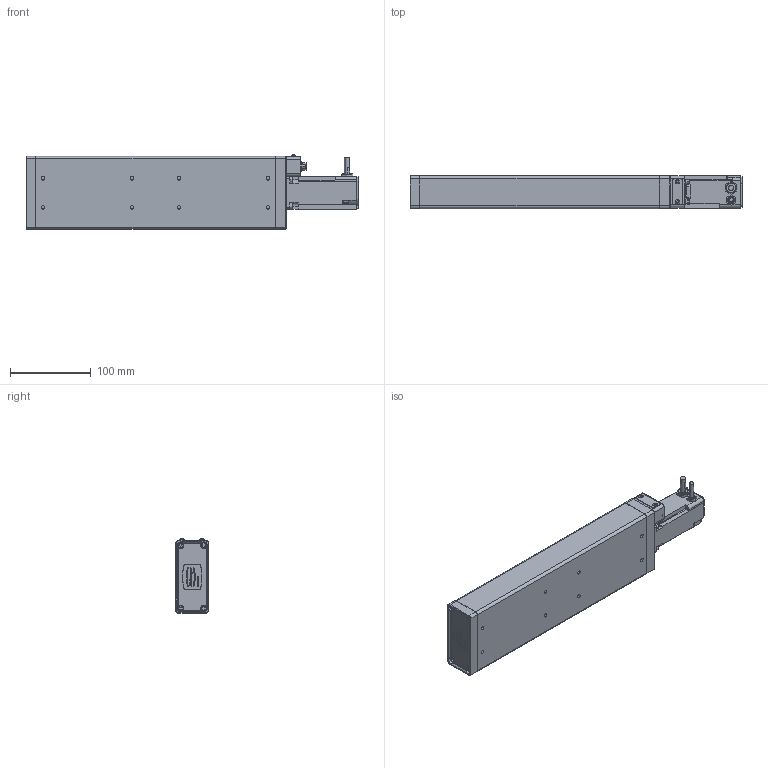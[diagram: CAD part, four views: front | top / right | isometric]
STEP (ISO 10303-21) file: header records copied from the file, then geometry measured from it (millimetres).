
FILE_DESCRIPTION((''),'2;1');
FILE_NAME('STM_LTP90_552154_ASM','2026-04-24T08:08:22',('profile'),(''),'CREO PARAMETRIC BY PTC INC, 2025123','CREO PARAMETRIC BY PTC INC, 2025123','');
FILE_SCHEMA(('AP242_MANAGED_MODEL_BASED_3D_ENGINEERING_MIM_LF { 1 0 10303 442 1 1 4 }'));
Length unit declared in the file: millimetre
Products named in the file (7): STM_GRUND_552027; AL_ALUMINIUM; STM_SCHIE_551941; STM_ABDEC_551919; STM_LTP90_552154_ASM
Assembly tree (3 placements, depth 2):
  AL_ALUMINIUM
  AL_ALUMINIUM
  AL_ALUMINIUM
  STM_LTP90_552154_ASM
    STM_GRUND_552027
    STM_SCHIE_551941
    STM_ABDEC_551919
Bounding box: 410.1 x 41.3 x 92.15 mm (x, y, z)
Volume: 1034419.1 mm3; surface area: 181424.4 mm2
Topology: 3 solids, 4 shells, 1164 faces, 2866 edges, 1807 vertices
Faces by surface type: plane 615, cylinder 290, cone 112, extrusion 105, torus 20, sphere 18, bspline 4
Entity records: 53071 total; most frequent: CARTESIAN_POINT 11725, ORIENTED_EDGE 5688, DIRECTION 5624, PRESENTATION_STYLE_ASSIGNMENT 3243, STYLED_ITEM 2883, CURVE_STYLE 2880, EDGE_CURVE 2844, VECTOR 1988
